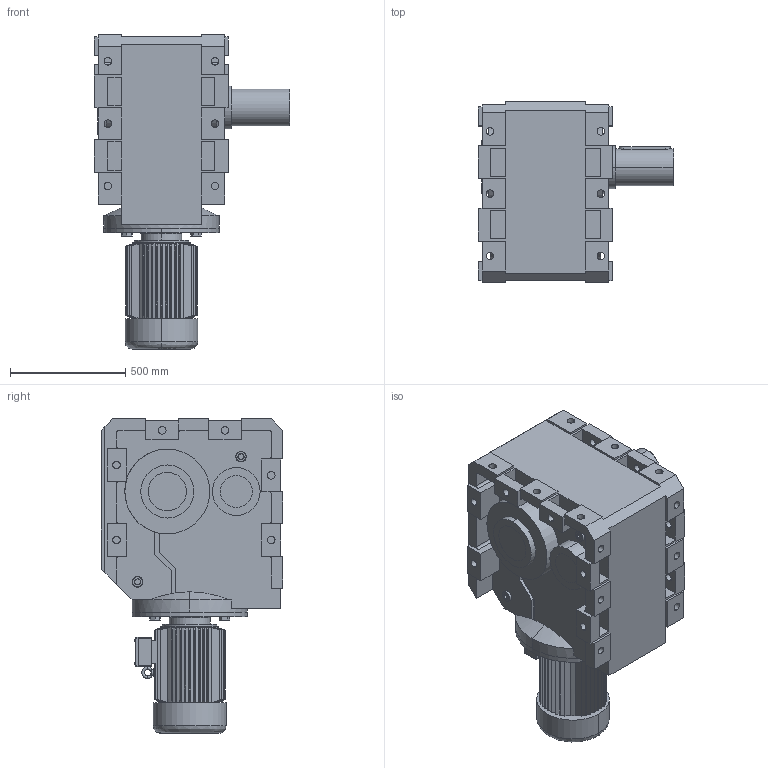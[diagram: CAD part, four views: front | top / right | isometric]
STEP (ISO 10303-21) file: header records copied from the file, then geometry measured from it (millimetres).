
FILE_DESCRIPTION (( 'STEP AP214' ), '1' );
FILE_NAME ('MKF167.STEP', '2020-06-27T06:46:24', ( '' ), ( '' ), 'SwSTEP 2.0', 'SolidWorks 2016', '' );
FILE_SCHEMA (( 'AUTOMOTIVE_DESIGN' ));
Length unit declared in the file: millimetre
Products named in the file (1): MKF167
Bounding box: 845 x 786.2 x 1362 mm (x, y, z)
Volume: 305162424.9 mm3; surface area: 6091731.5 mm2
Topology: 4 solids, 4 shells, 1080 faces, 2778 edges, 1762 vertices
Faces by surface type: plane 612, cylinder 199, cone 160, bspline 109
Entity records: 47598 total; most frequent: CARTESIAN_POINT 10313, ORIENTED_EDGE 5540, DIRECTION 4785, EDGE_CURVE 2770, VERTEX_POINT 1762, LINE 1629, VECTOR 1629, AXIS2_PLACEMENT_3D 1578
